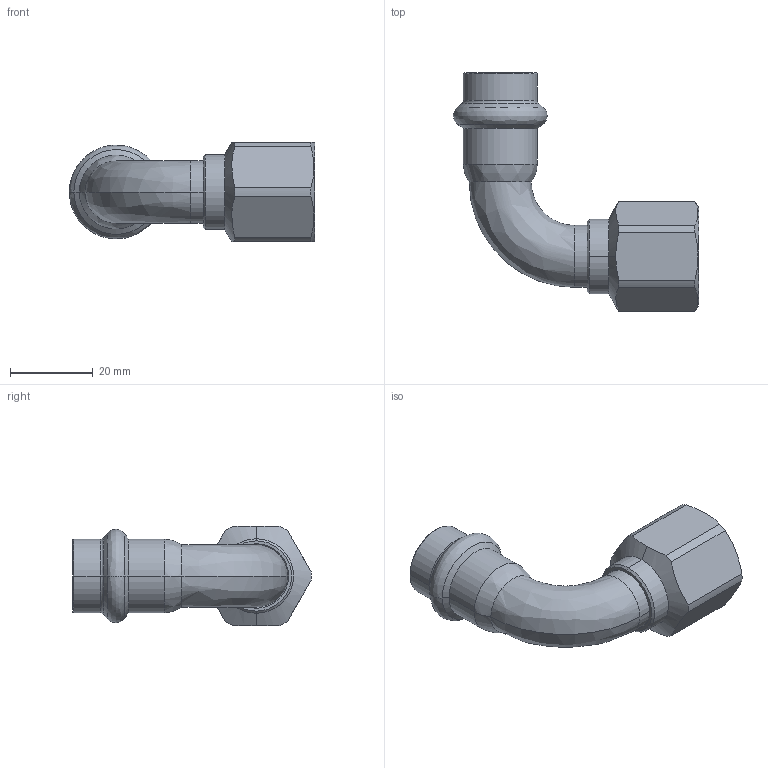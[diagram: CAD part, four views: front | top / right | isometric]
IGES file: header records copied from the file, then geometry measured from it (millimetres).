
Start section: Elysium IGES Interface
Global section: file name: C:\3d modellen sudo\C-Pr VP\SP8090GV\8090GVW1512.igs; native system: CoCreate Modeling 17.00A  17-Jun-2010; preprocessor: CoCreate IGES_3D V2.2; author: Unknown; organization: Unknown; date: 20130305.113353; units: millimetre
Bounding box: 59.34 x 57.73 x 24 mm (x, y, z)
Volume: 9757.3 mm3; surface area: 9786.2 mm2
Topology: 1 solids, 1 shells, 82 faces, 180 edges, 104 vertices
Faces by surface type: bspline 82
